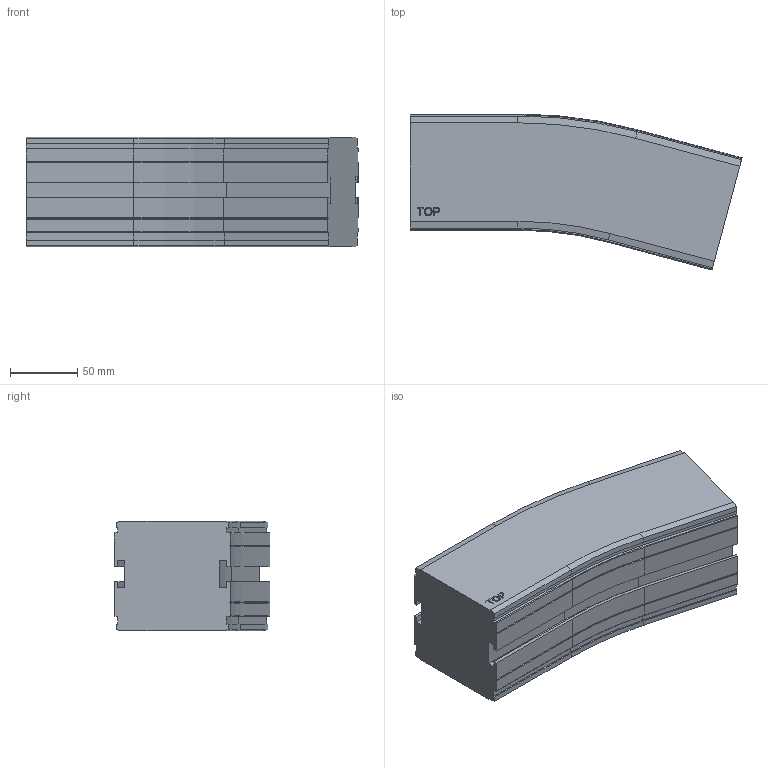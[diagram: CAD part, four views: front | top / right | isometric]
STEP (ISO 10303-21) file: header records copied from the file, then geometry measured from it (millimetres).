
FILE_DESCRIPTION((''),'2;1');
FILE_NAME('C:\Vault Klient\Projekt\Koncept konstruktion\Serie 830 Balk\830-5180.stp','2009-11-27T08:59:16',('Mathias'),(''),'Autodesk Inventor 2010','Autodesk Inventor 2010','');
FILE_SCHEMA(('AUTOMOTIVE_DESIGN { 1 0 10303 214 1 1 1 1 }'));
Length unit declared in the file: millimetre
Products named in the file (1): 830-5180
Bounding box: 246.05 x 115.46 x 81.5 mm (x, y, z)
Volume: 1585543.9 mm3; surface area: 110768.4 mm2
Topology: 1 solids, 1 shells, 169 faces, 446 edges, 284 vertices
Faces by surface type: plane 109, cylinder 30, bspline 14, cone 12, torus 4
Entity records: 5295 total; most frequent: CARTESIAN_POINT 1094, ORIENTED_EDGE 892, DIRECTION 802, EDGE_CURVE 446, VECTOR 346, LINE 346, VERTEX_POINT 284, AXIS2_PLACEMENT_3D 228
